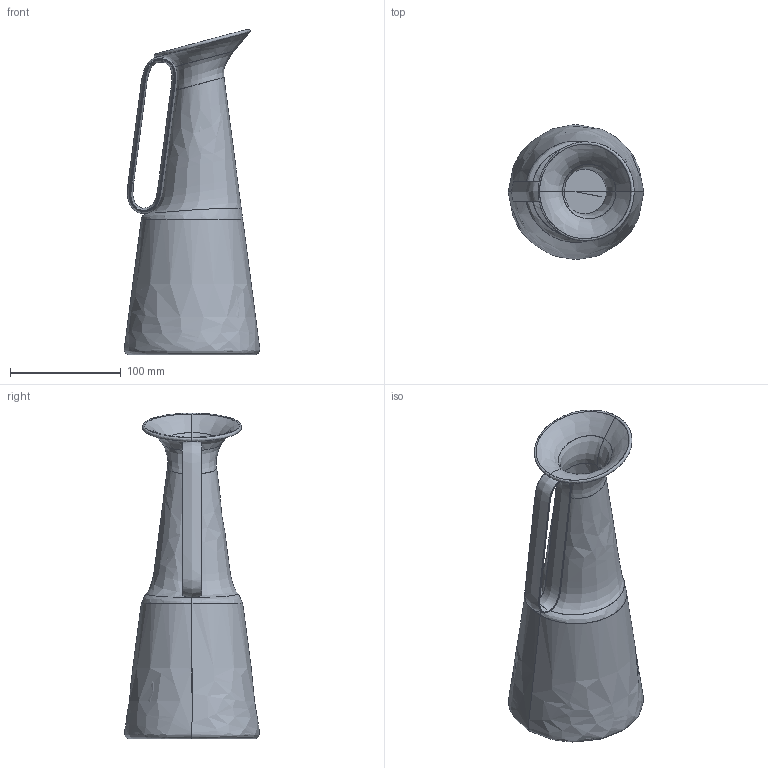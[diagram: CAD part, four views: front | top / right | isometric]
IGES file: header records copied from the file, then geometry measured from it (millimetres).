
Global section: file name: C:\Users\colombo_c\Desktop\Danese\Sito\3D mancanti\Sula\Sula.igs; native system: Rhinoceros ( Apr 16 2024 ); preprocessor: Trout Lake IGES 012 Apr 16 2024; date: 250711.074556; units: millimetre
Bounding box: 122.19 x 121.81 x 293.63 mm (x, y, z)
Surface area: 182087.2 mm2 (no closed solid volume)
Topology: 0 solids, 0 shells, 38 faces, 711 edges, 707 vertices
Faces by surface type: bspline 38
